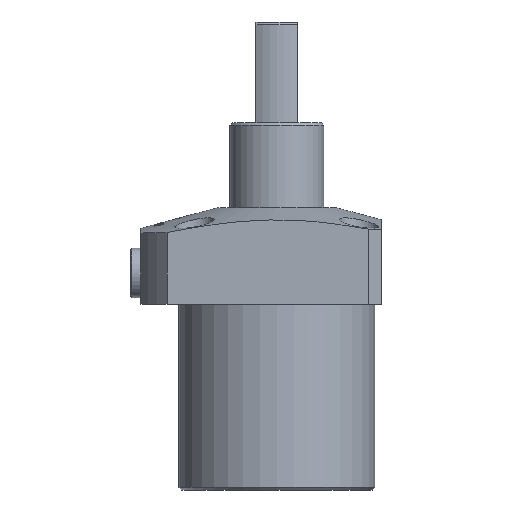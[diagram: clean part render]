
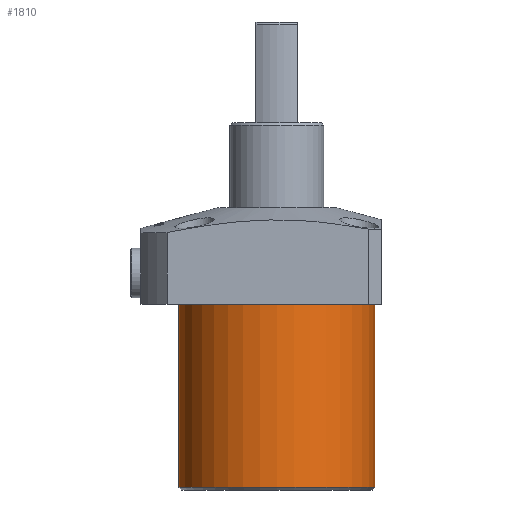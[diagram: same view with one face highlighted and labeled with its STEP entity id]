
A CAD part, front view. The second image highlights one B-rep face of the part: STEP entity #1810.
In plain terms, the highlighted cylindrical face has radius 37.5 mm (diameter 75 mm), a partial arc.
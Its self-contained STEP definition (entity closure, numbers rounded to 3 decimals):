
#130 = CARTESIAN_POINT ( 'NONE',  ( 0., 0., 0. ) ) ;
#743 = DIRECTION ( 'NONE',  ( 0., 0., 1. ) ) ;
#1258 = VERTEX_POINT ( 'NONE', #7904 ) ;
#1270 = DIRECTION ( 'NONE',  ( -1., 0., 0. ) ) ;
#1480 = DIRECTION ( 'NONE',  ( 0., 0., 1. ) ) ;
#1779 = CIRCLE ( 'NONE', #7470, 37.5 ) ;
#1810 = ADVANCED_FACE ( 'NONE', ( #13326 ), #7227, .T. ) ;
#2232 = VECTOR ( 'NONE', #743, 1000. ) ;
#2318 = CIRCLE ( 'NONE', #3966, 37.5 ) ;
#2406 = ORIENTED_EDGE ( 'NONE', *, *, #8425, .F. ) ;
#2541 = CARTESIAN_POINT ( 'NONE',  ( 0., 0., -70. ) ) ;
#2620 = DIRECTION ( 'NONE',  ( 1., 0., 0. ) ) ;
#3700 = DIRECTION ( 'NONE',  ( -1., 0., 0. ) ) ;
#3966 = AXIS2_PLACEMENT_3D ( 'NONE', #130, #8078, #1270 ) ;
#4252 = ORIENTED_EDGE ( 'NONE', *, *, #11784, .T. ) ;
#4883 = DIRECTION ( 'NONE',  ( 0., 0., 1. ) ) ;
#5167 = AXIS2_PLACEMENT_3D ( 'NONE', #8297, #1480, #2620 ) ;
#5277 = LINE ( 'NONE', #5459, #2232 ) ;
#5310 = LINE ( 'NONE', #11739, #14416 ) ;
#5459 = CARTESIAN_POINT ( 'NONE',  ( -37.5, 0., -71. ) ) ;
#6036 = VERTEX_POINT ( 'NONE', #11815 ) ;
#6353 = EDGE_LOOP ( 'NONE', ( #2406, #4252, #13916, #11484 ) ) ;
#6517 = EDGE_CURVE ( 'NONE', #13090, #7816, #5310, .T. ) ;
#7227 = CYLINDRICAL_SURFACE ( 'NONE', #5167, 37.5 ) ;
#7470 = AXIS2_PLACEMENT_3D ( 'NONE', #2541, #10547, #3700 ) ;
#7580 = CARTESIAN_POINT ( 'NONE',  ( 37.5, 0., -70. ) ) ;
#7816 = VERTEX_POINT ( 'NONE', #9259 ) ;
#7904 = CARTESIAN_POINT ( 'NONE',  ( -37.5, 0., 0. ) ) ;
#8078 = DIRECTION ( 'NONE',  ( 0., 0., -1. ) ) ;
#8297 = CARTESIAN_POINT ( 'NONE',  ( 0., 0., -71. ) ) ;
#8425 = EDGE_CURVE ( 'NONE', #6036, #1258, #5277, .T. ) ;
#9259 = CARTESIAN_POINT ( 'NONE',  ( 37.5, 0., 0. ) ) ;
#10547 = DIRECTION ( 'NONE',  ( 0., 0., 1. ) ) ;
#11173 = EDGE_CURVE ( 'NONE', #7816, #1258, #2318, .T. ) ;
#11484 = ORIENTED_EDGE ( 'NONE', *, *, #11173, .T. ) ;
#11739 = CARTESIAN_POINT ( 'NONE',  ( 37.5, 0., -71. ) ) ;
#11784 = EDGE_CURVE ( 'NONE', #6036, #13090, #1779, .T. ) ;
#11815 = CARTESIAN_POINT ( 'NONE',  ( -37.5, 0., -70. ) ) ;
#13090 = VERTEX_POINT ( 'NONE', #7580 ) ;
#13326 = FACE_OUTER_BOUND ( 'NONE', #6353, .T. ) ;
#13916 = ORIENTED_EDGE ( 'NONE', *, *, #6517, .T. ) ;
#14416 = VECTOR ( 'NONE', #4883, 1000. ) ;
